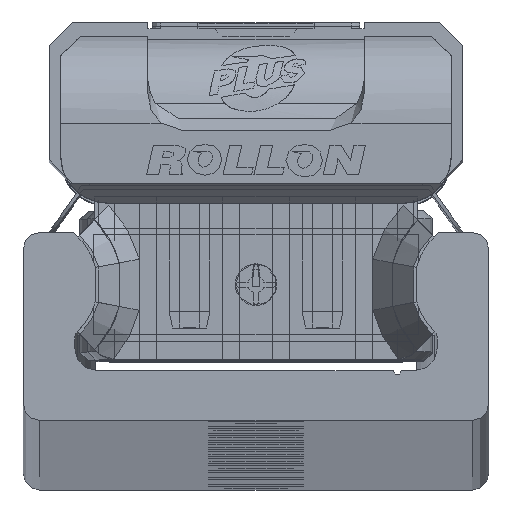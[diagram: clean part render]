
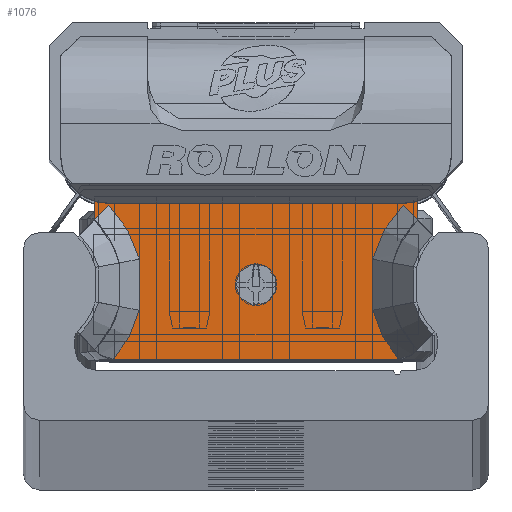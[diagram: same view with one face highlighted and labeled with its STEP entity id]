
A CAD part, top view. The second image highlights one B-rep face of the part: STEP entity #1076.
In plain terms, the highlighted planar face has unit normal (0, 0, 1) as drawn and (0, 0, -1) by its records, which use the part's own axes.
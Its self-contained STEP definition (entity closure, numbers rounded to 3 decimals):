
#1076 = ADVANCED_FACE( '', ( #2704, #2705 ), #2706, .F. );
#2704 = FACE_BOUND( '', #5092, .T. );
#2705 = FACE_OUTER_BOUND( '', #5093, .T. );
#2706 = PLANE( '', #5094 );
#5092 = EDGE_LOOP( '', ( #8084 ) );
#5093 = EDGE_LOOP( '', ( #8085, #8086, #8087, #8088, #8089, #8090, #8091, #8092, #8093, #8094, #8095, #8096, #8097, #8098 ) );
#5094 = AXIS2_PLACEMENT_3D( '', #8099, #8100, #8101 );
#8084 = ORIENTED_EDGE( '', *, *, #13575, .T. );
#8085 = ORIENTED_EDGE( '', *, *, #13576, .F. );
#8086 = ORIENTED_EDGE( '', *, *, #13577, .T. );
#8087 = ORIENTED_EDGE( '', *, *, #13578, .T. );
#8088 = ORIENTED_EDGE( '', *, *, #13579, .T. );
#8089 = ORIENTED_EDGE( '', *, *, #13580, .T. );
#8090 = ORIENTED_EDGE( '', *, *, #13581, .T. );
#8091 = ORIENTED_EDGE( '', *, *, #13166, .T. );
#8092 = ORIENTED_EDGE( '', *, *, #13582, .T. );
#8093 = ORIENTED_EDGE( '', *, *, #12980, .T. );
#8094 = ORIENTED_EDGE( '', *, *, #13583, .T. );
#8095 = ORIENTED_EDGE( '', *, *, #13348, .T. );
#8096 = ORIENTED_EDGE( '', *, *, #13584, .T. );
#8097 = ORIENTED_EDGE( '', *, *, #13585, .T. );
#8098 = ORIENTED_EDGE( '', *, *, #13199, .T. );
#8099 = CARTESIAN_POINT( '', ( 9.7, 4.89, -10.6 ) );
#8100 = DIRECTION( '', ( 0., 0., 1. ) );
#8101 = DIRECTION( '', ( 1., 0., 0. ) );
#12980 = EDGE_CURVE( '', #15273, #15270, #15274, .T. );
#13166 = EDGE_CURVE( '', #15612, #15613, #15614, .T. );
#13199 = EDGE_CURVE( '', #15671, #15669, #15672, .T. );
#13348 = EDGE_CURVE( '', #15928, #15936, #15938, .T. );
#13575 = EDGE_CURVE( '', #16318, #16318, #16319, .T. );
#13576 = EDGE_CURVE( '', #16320, #15669, #16321, .T. );
#13577 = EDGE_CURVE( '', #16320, #16322, #16323, .T. );
#13578 = EDGE_CURVE( '', #16322, #16324, #16325, .T. );
#13579 = EDGE_CURVE( '', #16324, #16326, #16327, .T. );
#13580 = EDGE_CURVE( '', #16326, #16328, #16329, .T. );
#13581 = EDGE_CURVE( '', #16328, #15612, #16330, .T. );
#13582 = EDGE_CURVE( '', #15613, #15273, #16331, .T. );
#13583 = EDGE_CURVE( '', #15270, #15928, #16332, .T. );
#13584 = EDGE_CURVE( '', #15936, #16333, #16334, .T. );
#13585 = EDGE_CURVE( '', #16333, #15671, #16335, .T. );
#15270 = VERTEX_POINT( '', #18669 );
#15273 = VERTEX_POINT( '', #18677 );
#15274 = B_SPLINE_CURVE_WITH_KNOTS( '', 2, ( #18678, #18679, #18680 ), .UNSPECIFIED., .F., .F., ( 3, 3 ), ( 0., 1. ), .UNSPECIFIED. );
#15612 = VERTEX_POINT( '', #19160 );
#15613 = VERTEX_POINT( '', #19161 );
#15614 = B_SPLINE_CURVE_WITH_KNOTS( '', 2, ( #19162, #19163, #19164, #19165, #19166 ), .UNSPECIFIED., .F., .F., ( 3, 2, 3 ), ( 0., 0.5, 1. ), .UNSPECIFIED. );
#15669 = VERTEX_POINT( '', #19236 );
#15671 = VERTEX_POINT( '', #19239 );
#15672 = LINE( '', #19240, #19241 );
#15928 = VERTEX_POINT( '', #19549 );
#15936 = VERTEX_POINT( '', #19569 );
#15938 = B_SPLINE_CURVE_WITH_KNOTS( '', 2, ( #19572, #19573, #19574 ), .UNSPECIFIED., .F., .F., ( 3, 3 ), ( 0.1, 1. ), .UNSPECIFIED. );
#16318 = VERTEX_POINT( '', #20091 );
#16319 = CIRCLE( '', #20092, 1.25 );
#16320 = VERTEX_POINT( '', #20093 );
#16321 = LINE( '', #20094, #20095 );
#16322 = VERTEX_POINT( '', #20096 );
#16323 = CIRCLE( '', #20097, 2.8 );
#16324 = VERTEX_POINT( '', #20098 );
#16325 = LINE( '', #20099, #20100 );
#16326 = VERTEX_POINT( '', #20101 );
#16327 = CIRCLE( '', #20102, 2.8 );
#16328 = VERTEX_POINT( '', #20103 );
#16329 = LINE( '', #20104, #20105 );
#16330 = LINE( '', #20106, #20107 );
#16331 = B_SPLINE_CURVE_WITH_KNOTS( '', 2, ( #20108, #20109, #20110 ), .UNSPECIFIED., .F., .F., ( 3, 3 ), ( 0., 1. ), .UNSPECIFIED. );
#16332 = LINE( '', #20111, #20112 );
#16333 = VERTEX_POINT( '', #20113 );
#16334 = B_SPLINE_CURVE_WITH_KNOTS( '', 2, ( #20114, #20115, #20116 ), .UNSPECIFIED., .F., .F., ( 3, 3 ), ( 0., 1. ), .UNSPECIFIED. );
#16335 = B_SPLINE_CURVE_WITH_KNOTS( '', 2, ( #20117, #20118, #20119 ), .UNSPECIFIED., .F., .F., ( 3, 3 ), ( 0., 1. ), .UNSPECIFIED. );
#18669 = CARTESIAN_POINT( '', ( 8.59, -4.893, -10.6 ) );
#18677 = CARTESIAN_POINT( '', ( 7.031, -1.944, -10.6 ) );
#18678 = CARTESIAN_POINT( '', ( 7.031, -1.944, -10.6 ) );
#18679 = CARTESIAN_POINT( '', ( 7.429, -3.615, -10.6 ) );
#18680 = CARTESIAN_POINT( '', ( 8.588, -4.89, -10.6 ) );
#19160 = CARTESIAN_POINT( '', ( 8.853, 4.366, -10.6 ) );
#19161 = CARTESIAN_POINT( '', ( 7.031, 1.144, -10.6 ) );
#19162 = CARTESIAN_POINT( '', ( 8.853, 4.366, -10.6 ) );
#19163 = CARTESIAN_POINT( '', ( 8.182, 3.708, -10.6 ) );
#19164 = CARTESIAN_POINT( '', ( 7.715, 2.883, -10.6 ) );
#19165 = CARTESIAN_POINT( '', ( 7.249, 2.058, -10.6 ) );
#19166 = CARTESIAN_POINT( '', ( 7.031, 1.144, -10.6 ) );
#19236 = CARTESIAN_POINT( '', ( -9.7, 3.494, -10.6 ) );
#19239 = CARTESIAN_POINT( '', ( -8.853, 4.366, -10.6 ) );
#19240 = CARTESIAN_POINT( '', ( -8.853, 4.366, -10.6 ) );
#19241 = VECTOR( '', #23759, 1000. );
#19549 = CARTESIAN_POINT( '', ( -8.59, -4.893, -10.6 ) );
#19569 = CARTESIAN_POINT( '', ( -7.031, -1.944, -10.6 ) );
#19572 = CARTESIAN_POINT( '', ( -8.587, -4.89, -10.6 ) );
#19573 = CARTESIAN_POINT( '', ( -7.432, -3.63, -10.6 ) );
#19574 = CARTESIAN_POINT( '', ( -7.031, -1.944, -10.6 ) );
#20091 = CARTESIAN_POINT( '', ( 1.25, -0.39, -10.6 ) );
#20092 = AXIS2_PLACEMENT_3D( '', #24291, #24292, #24293 );
#20093 = CARTESIAN_POINT( '', ( -9.7, 4.612, -10.6 ) );
#20094 = CARTESIAN_POINT( '', ( -9.7, 4.89, -10.6 ) );
#20095 = VECTOR( '', #24294, 1000. );
#20096 = CARTESIAN_POINT( '', ( -8.95, 4.51, -10.6 ) );
#20097 = AXIS2_PLACEMENT_3D( '', #24295, #24296, #24297 );
#20098 = CARTESIAN_POINT( '', ( 8.95, 4.51, -10.6 ) );
#20099 = CARTESIAN_POINT( '', ( 9.7, 4.51, -10.6 ) );
#20100 = VECTOR( '', #24298, 1000. );
#20101 = CARTESIAN_POINT( '', ( 9.7, 4.612, -10.6 ) );
#20102 = AXIS2_PLACEMENT_3D( '', #24299, #24300, #24301 );
#20103 = CARTESIAN_POINT( '', ( 9.7, 3.497, -10.6 ) );
#20104 = CARTESIAN_POINT( '', ( 9.7, 4.89, -10.6 ) );
#20105 = VECTOR( '', #24302, 1000. );
#20106 = CARTESIAN_POINT( '', ( 9.7, 3.501, -10.6 ) );
#20107 = VECTOR( '', #24303, 1000. );
#20108 = CARTESIAN_POINT( '', ( 7.031, 1.144, -10.6 ) );
#20109 = CARTESIAN_POINT( '', ( 6.929, -0.4, -10.6 ) );
#20110 = CARTESIAN_POINT( '', ( 7.031, -1.944, -10.6 ) );
#20111 = CARTESIAN_POINT( '', ( 9.7, -4.89, -10.6 ) );
#20112 = VECTOR( '', #24304, 1000. );
#20113 = CARTESIAN_POINT( '', ( -7.031, 1.144, -10.6 ) );
#20114 = CARTESIAN_POINT( '', ( -7.031, -1.944, -10.6 ) );
#20115 = CARTESIAN_POINT( '', ( -6.929, -0.4, -10.6 ) );
#20116 = CARTESIAN_POINT( '', ( -7.031, 1.144, -10.6 ) );
#20117 = CARTESIAN_POINT( '', ( -7.031, 1.144, -10.6 ) );
#20118 = CARTESIAN_POINT( '', ( -7.477, 3.018, -10.6 ) );
#20119 = CARTESIAN_POINT( '', ( -8.853, 4.366, -10.6 ) );
#23759 = DIRECTION( '', ( -0.7, -0.714, 0. ) );
#24291 = CARTESIAN_POINT( '', ( 0., -0.39, -10.6 ) );
#24292 = DIRECTION( '', ( 0., 0., 1. ) );
#24293 = DIRECTION( '', ( 1., 0., 0. ) );
#24294 = DIRECTION( '', ( 0., -1., 0. ) );
#24295 = CARTESIAN_POINT( '', ( -8.95, 7.31, -10.6 ) );
#24296 = DIRECTION( '', ( 0., 0., 1. ) );
#24297 = DIRECTION( '', ( 1., 0., 0. ) );
#24298 = DIRECTION( '', ( 1., 0., 0. ) );
#24299 = CARTESIAN_POINT( '', ( 8.95, 7.31, -10.6 ) );
#24300 = DIRECTION( '', ( 0., 0., 1. ) );
#24301 = DIRECTION( '', ( 1., 0., 0. ) );
#24302 = DIRECTION( '', ( 0., -1., 0. ) );
#24303 = DIRECTION( '', ( -0.7, 0.714, 0. ) );
#24304 = DIRECTION( '', ( -1., 0., 0. ) );
